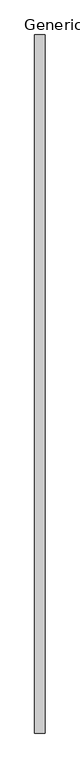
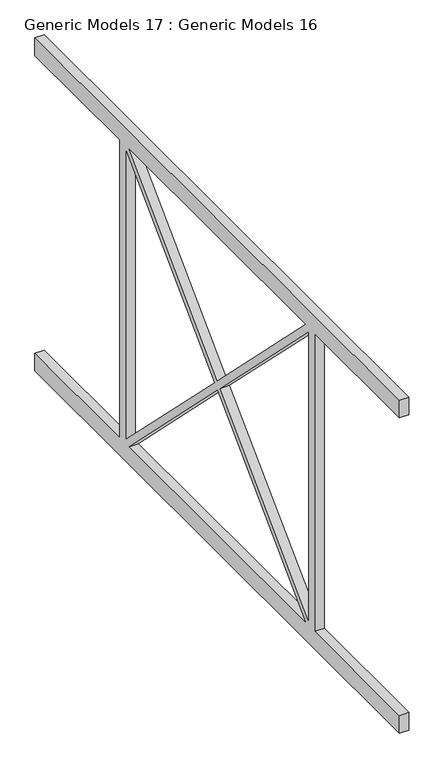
"""IFC4 building model written with IfcOpenShell, lengths in millimetres: proxy geometry, Generic Models 17 : Generic Models 16."""

import ifcopenshell
import ifcopenshell.guid

model = None  # the IFC model being written
_history = None  # IfcOwnerHistory: only IFC2X3 demands one
_inside = {}  # id of a spatial element -> (the spatial element, [elements in it])
_under = {}  # id of a project, library or spatial element -> (it, [spatial elements below it])
_declared = {}  # id of a project -> (the project, [libraries it declares])
_typed = {}  # id of a type object -> (the type object, [elements of that type])
_made_of = {}  # id of a material, layer set ... -> (it, [elements and type objects made of it])


def new_model(schema):
    """Start an empty IFC model of exactly this schema.

    Asked for "IFC4X3", IfcOpenShell would pick the latest addendum, in which some entities
    have other attributes; the version numbers below select the first issue.
    IFC2X3 requires an IfcOwnerHistory on every rooted entity: one is made here for all.
    """
    global model, _history
    if schema == "IFC4X3":
        model = ifcopenshell.file(schema_version=(4, 3, 0, 0))
    else:
        model = ifcopenshell.file(schema=schema)
    _inside.clear()
    _under.clear()
    _declared.clear()
    _typed.clear()
    _made_of.clear()
    _history = None
    if model.schema == "IFC2X3":
        org = make("IfcOrganization", Name="unknown")
        user = make(
            "IfcPersonAndOrganization",
            ThePerson=make("IfcPerson", FamilyName="unknown"),
            TheOrganization=org,
        )
        app = make(
            "IfcApplication",
            ApplicationDeveloper=org,
            Version="unknown",
            ApplicationFullName="unknown",
            ApplicationIdentifier="unknown",
        )
        _history = make(
            "IfcOwnerHistory",
            OwningUser=user,
            OwningApplication=app,
            ChangeAction="ADDED",
            CreationDate=0,
        )
    return model


def make(cls, **values):
    """One entity of the class cls with the attributes given. An attribute that is None is left unset."""
    return model.create_entity(
        cls, **{name: value for name, value in values.items() if value is not None}
    )


def rooted(cls, **values):
    """An entity with a GlobalId (a new one), such as an element, a storey or a relation."""
    return make(cls, GlobalId=ifcopenshell.guid.new(), OwnerHistory=_history, **values)


def si_unit(unit_type, name, prefix=None):
    """IfcSIUnit, for example si_unit("LENGTHUNIT", "METRE", prefix="MILLI")."""
    return make("IfcSIUnit", UnitType=unit_type, Prefix=prefix, Name=name)


def assignment(units):
    """IfcUnitAssignment: the units of a project."""
    return None if units is None else make("IfcUnitAssignment", Units=units)


def point(xyz):
    """IfcCartesianPoint."""
    return None if xyz is None else make("IfcCartesianPoint", Coordinates=xyz)


def direction(xyz):
    """IfcDirection."""
    return None if xyz is None else make("IfcDirection", DirectionRatios=xyz)


def frame(location, z_axis=None, x_axis=None):
    """IfcAxis2Placement3D, a coordinate frame: its origin and axes. An axis left out is left unset."""
    return make(
        "IfcAxis2Placement3D",
        Location=point(location),
        Axis=direction(z_axis),
        RefDirection=direction(x_axis),
    )


def origin():
    """The frame at (0, 0, 0) with its axes left unset."""
    return frame((0.0, 0.0, 0.0))


def place(relative_to, where):
    """IfcLocalPlacement: puts the frame where relative to a parent placement (None: the world)."""
    return make(
        "IfcLocalPlacement", PlacementRelTo=relative_to, RelativePlacement=where
    )


def context(
    kind, dimensions, precision=None, world=None, true_north=None, identifier=None
):
    """IfcGeometricRepresentationContext, for example the 3D "Model" context."""
    return make(
        "IfcGeometricRepresentationContext",
        ContextIdentifier=identifier,
        ContextType=kind,
        CoordinateSpaceDimension=dimensions,
        Precision=precision,
        WorldCoordinateSystem=world,
        TrueNorth=true_north,
    )


def project(units=None, contexts=None):
    """IfcProject with its units and contexts."""
    return rooted(
        "IfcProject",
        Name="project",
        RepresentationContexts=contexts,
        UnitsInContext=assignment(units),
    )


def spatial(cls, under=None, at=None, **own):
    """A site, building, storey or space (cls), placed at a placement, below another one or the project."""
    s = rooted(cls, ObjectPlacement=at, **own)
    if under is not None:
        _under.setdefault(under.id(), (under, []))[1].append(s)
    return s


def polyline(points):
    """IfcPolyline through the points."""
    return make("IfcPolyline", Points=[point(p) for p in points])


def outline(outer, holes=None, kind="AREA"):
    """IfcArbitraryClosedProfileDef: a profile drawn as a closed curve; with holes, ...WithVoids."""
    if holes is None:
        return make("IfcArbitraryClosedProfileDef", ProfileType=kind, OuterCurve=outer)
    return make(
        "IfcArbitraryProfileDefWithVoids",
        ProfileType=kind,
        OuterCurve=outer,
        InnerCurves=holes,
    )


def extrude(swept, where, along, depth):
    """IfcExtrudedAreaSolid: the profile swept, set in the frame where, extruded along a direction by depth."""
    return make(
        "IfcExtrudedAreaSolid",
        SweptArea=swept,
        Position=where,
        ExtrudedDirection=direction(along),
        Depth=depth,
    )


def shape(context_of_items, identifier, shape_type, items):
    """IfcShapeRepresentation: the items that make up one representation, for example the "Body"."""
    return make(
        "IfcShapeRepresentation",
        ContextOfItems=context_of_items,
        RepresentationIdentifier=identifier,
        RepresentationType=shape_type,
        Items=items,
    )


def source(mapping_origin, context_of_items, identifier, shape_type, items):
    """IfcRepresentationMap: a shape defined once, which mapped items show again and again."""
    return make(
        "IfcRepresentationMap",
        MappingOrigin=mapping_origin,
        MappedRepresentation=shape(context_of_items, identifier, shape_type, items),
    )


def transform(
    local_origin,
    x_axis=None,
    y_axis=None,
    z_axis=None,
    scale=None,
    scale2=None,
    scale3=None,
    uniform=True,
):
    """IfcCartesianTransformationOperator3D, or its non-uniform kind. x_axis, y_axis, z_axis: its Axis1, 2, 3."""
    if uniform:
        return make(
            "IfcCartesianTransformationOperator3D",
            Axis1=direction(x_axis),
            Axis2=direction(y_axis),
            LocalOrigin=point(local_origin),
            Scale=scale,
            Axis3=direction(z_axis),
        )
    return make(
        "IfcCartesianTransformationOperator3DnonUniform",
        Axis1=direction(x_axis),
        Axis2=direction(y_axis),
        LocalOrigin=point(local_origin),
        Scale=scale,
        Axis3=direction(z_axis),
        Scale2=scale2,
        Scale3=scale3,
    )


def mapped(mapping_source, mapping_target):
    """IfcMappedItem: shows the shape of a source again, moved by a transform."""
    return make(
        "IfcMappedItem", MappingSource=mapping_source, MappingTarget=mapping_target
    )


def made_of(thing, what):
    """Note that an element or type object is made of a material, layer set ...; save() writes the relation."""
    if what is not None:
        _made_of.setdefault(what.id(), (what, []))[1].append(thing)
    return thing


def element(
    cls,
    number,
    at=None,
    inside=None,
    cuts=None,
    type_object=None,
    material=None,
    context=None,
    identifier="Body",
    shape_type=None,
    held_by="IfcProductDefinitionShape",
    body=None,
    shapes=None,
    **own,
):
    """One element of the class cls, such as IfcWall. Its Tag is "e" and its number.

    at: its placement. inside: the storey or other place that contains it. cuts: it is an
    opening in that element (IfcRelVoidsElement). A single representation is given by context,
    identifier, shape_type and body (its items); several are given by shapes. held_by: the class
    of the entity that holds the representations. save() writes the other relations.
    """
    e = rooted(cls, Tag="e%d" % number, ObjectPlacement=at, **own)
    if body is not None:
        shapes = [shape(context, identifier, shape_type, body)]
    if shapes is not None:
        e.Representation = make(held_by, Representations=shapes)
    if inside is not None:
        _inside.setdefault(inside.id(), (inside, []))[1].append(e)
    if cuts is not None:
        rooted(
            "IfcRelVoidsElement", RelatingBuildingElement=cuts, RelatedOpeningElement=e
        )
    if type_object is not None:
        _typed.setdefault(type_object.id(), (type_object, []))[1].append(e)
    return made_of(e, material)


def aggregate(whole, parts):
    """IfcRelAggregates: a whole, such as a stair, and the parts it consists of."""
    return rooted("IfcRelAggregates", RelatingObject=whole, RelatedObjects=parts)


def save(model, path):
    """Write the relations noted so far, then the file.

    IfcRelAggregates (storeys below a building ...), IfcRelContainedInSpatialStructure (elements
    in a storey), IfcRelDefinesByType, IfcRelAssociatesMaterial and IfcRelDeclares: one each for
    every whole, place, type object, material and project.
    """
    for whole, parts in _under.values():
        aggregate(whole, parts)
    for where, things in _inside.values():
        rooted(
            "IfcRelContainedInSpatialStructure",
            RelatedElements=things,
            RelatingStructure=where,
        )
    for kind, things in _typed.values():
        rooted("IfcRelDefinesByType", RelatedObjects=things, RelatingType=kind)
    for what, things in _made_of.values():
        rooted("IfcRelAssociatesMaterial", RelatedObjects=things, RelatingMaterial=what)
    for by, libraries in _declared.values():
        rooted("IfcRelDeclares", RelatingContext=by, RelatedDefinitions=libraries)
    model.write(path)


def generic_models_17_generic_models_16_2699965c(model_context):
    return source(origin(), model_context, "Body", "SweptSolid", [
        extrude(outline(polyline([(10278.4977909, 4247.8628218), (10278.4977909, 4297.8628218), (11978.4977909, 4297.8628218), (11978.4977909, 4247.8628218), (11583.4977909, 4247.8628218), (11583.4977909, 3400.0), (11978.4977909, 3400.0), (11978.4977909, 3350.0), (10278.4977909, 3350.0), (10278.4977909, 3400.0), (10673.4977909, 3400.0), (10673.4977909, 4247.8628218), (10278.4977909, 4247.8628218)]), holes=[polyline([(10703.4977909, 3414.1243678), (11114.3378203, 3823.9314109), (10703.4977909, 4233.738454), (10703.4977909, 3414.1243678)]), polyline([(11539.3378203, 3400.0), (11128.4977909, 3809.8070431), (10717.6577616, 3400.0), (11539.3378203, 3400.0)]), polyline([(11553.4977909, 4233.738454), (11142.6577616, 3823.9314109), (11553.4977909, 3414.1243678), (11553.4977909, 4233.738454)]), polyline([(10717.6577616, 4247.8628218), (11128.4977909, 3838.0557788), (11539.3378203, 4247.8628218), (10717.6577616, 4247.8628218)])]), frame((12700.0001123, 0.0, 0.0), z_axis=(1.0, 0.0, 0.0), x_axis=(0.0, 1.0, 0.0)), (0.0, 0.0, 1.0), 25.0),
    ])


if __name__ == "__main__":
    model = new_model("IFC4")
    model_context = context("Model", 3, world=origin())
    ifc_project = project(units=[si_unit("LENGTHUNIT", "METRE", prefix="MILLI")], contexts=[model_context])
    site = spatial("IfcSite", under=ifc_project)
    building = spatial("IfcBuilding", under=site)
    placement = place(None, origin())
    generic_models_17_generic_models_16_shape = generic_models_17_generic_models_16_2699965c(model_context)
    element("IfcBuildingElementProxy", 1, Name="Generic Models 17 : Generic Models 16", ObjectType="Generic Models 17 : Generic Models 16", at=placement, inside=building, context=model_context, shape_type="MappedRepresentation", body=[
        mapped(generic_models_17_generic_models_16_shape, transform((0.0, 0.0, 0.0), x_axis=(1.0, 0.0, 0.0), y_axis=(0.0, 1.0, 0.0), z_axis=(0.0, 0.0, 1.0))),
    ])
    save(model, "model.ifc")
